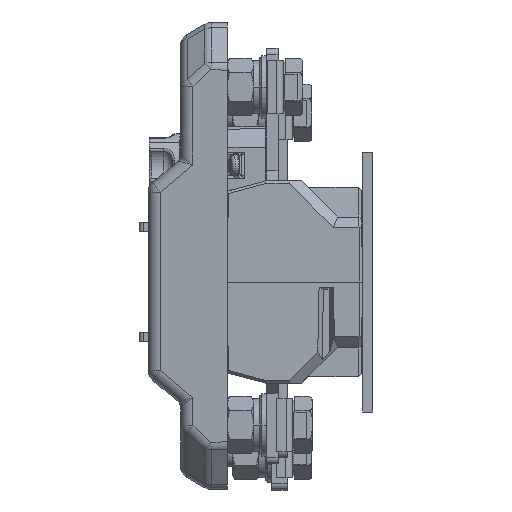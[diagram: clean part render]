
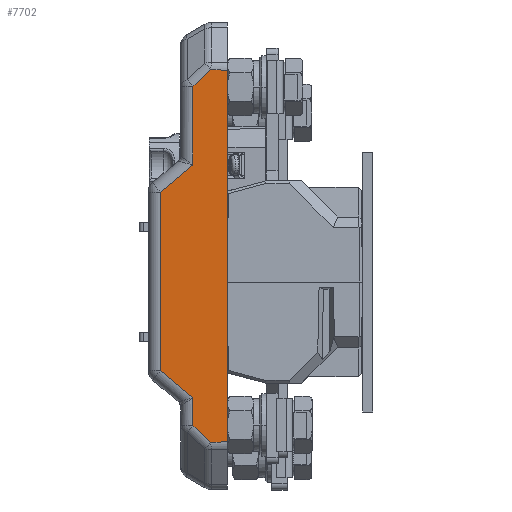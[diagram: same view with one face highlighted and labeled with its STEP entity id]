
A CAD part, left-side view. The second image highlights one B-rep face of the part: STEP entity #7702.
In plain terms, the highlighted planar face has unit normal (-0.999, 0.052, 0).
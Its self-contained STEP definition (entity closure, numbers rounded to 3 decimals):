
#6803 = VERTEX_POINT ( 'NONE', #77445 ) ;
#6806 = VERTEX_POINT ( 'NONE', #77440 ) ;
#6814 = EDGE_CURVE ( 'NONE', #6803, #6806, #77492, .T. ) ;
#7632 = EDGE_CURVE ( 'NONE', #7766, #7769, #78587, .T. ) ;
#7644 = VERTEX_POINT ( 'NONE', #78559 ) ;
#7647 = ORIENTED_EDGE ( 'NONE', *, *, #6814, .T. ) ;
#7695 = EDGE_CURVE ( 'NONE', #6806, #7766, #78606, .T. ) ;
#7696 = ORIENTED_EDGE ( 'NONE', *, *, #7695, .T. ) ;
#7702 = ADVANCED_FACE ( 'NONE', ( #78689 ), #78658, .T. ) ;
#7704 = ORIENTED_EDGE ( 'NONE', *, *, #7717, .T. ) ;
#7706 = VERTEX_POINT ( 'NONE', #78656 ) ;
#7707 = ORIENTED_EDGE ( 'NONE', *, *, #7632, .T. ) ;
#7708 = EDGE_CURVE ( 'NONE', #7769, #7644, #78660, .T. ) ;
#7710 = VERTEX_POINT ( 'NONE', #78676 ) ;
#7713 = VERTEX_POINT ( 'NONE', #78645 ) ;
#7715 = ORIENTED_EDGE ( 'NONE', *, *, #7708, .T. ) ;
#7717 = EDGE_CURVE ( 'NONE', #7644, #7706, #78647, .T. ) ;
#7718 = EDGE_CURVE ( 'NONE', #7730, #7841, #78662, .T. ) ;
#7720 = EDGE_CURVE ( 'NONE', #7706, #7713, #78729, .T. ) ;
#7724 = ORIENTED_EDGE ( 'NONE', *, *, #7718, .T. ) ;
#7726 = ORIENTED_EDGE ( 'NONE', *, *, #7839, .T. ) ;
#7728 = ORIENTED_EDGE ( 'NONE', *, *, #7720, .T. ) ;
#7729 = EDGE_CURVE ( 'NONE', #7713, #7710, #78654, .T. ) ;
#7730 = VERTEX_POINT ( 'NONE', #78719 ) ;
#7751 = EDGE_LOOP ( 'NONE', ( #7707, #7715, #7704, #7728, #7837, #7726, #7724, #7845, #7647, #7696 ) ) ;
#7766 = VERTEX_POINT ( 'NONE', #78694 ) ;
#7769 = VERTEX_POINT ( 'NONE', #78771 ) ;
#7837 = ORIENTED_EDGE ( 'NONE', *, *, #7729, .T. ) ;
#7839 = EDGE_CURVE ( 'NONE', #7710, #7730, #78865, .T. ) ;
#7841 = VERTEX_POINT ( 'NONE', #78862 ) ;
#7845 = ORIENTED_EDGE ( 'NONE', *, *, #7847, .T. ) ;
#7847 = EDGE_CURVE ( 'NONE', #7841, #6803, #77776, .T. ) ;
#77440 = CARTESIAN_POINT ( 'NONE',  ( -105.5, 0., -18.58 ) ) ;
#77445 = CARTESIAN_POINT ( 'NONE',  ( -105.5, 0., -161.42 ) ) ;
#77479 = CARTESIAN_POINT ( 'NONE',  ( -105.5, 0., -17. ) ) ;
#77484 = DIRECTION ( 'NONE',  ( 0., 0., 1. ) ) ;
#77485 = VECTOR ( 'NONE', #77484, 1000. ) ;
#77492 = LINE ( 'NONE', #77479, #77485 ) ;
#77709 = DIRECTION ( 'NONE',  ( -0.052, -0.998, 0.044 ) ) ;
#77768 = CARTESIAN_POINT ( 'NONE',  ( -105.835, -6.384, -161.137 ) ) ;
#77771 = VECTOR ( 'NONE', #77709, 1000. ) ;
#77776 = LINE ( 'NONE', #77768, #77771 ) ;
#78559 = CARTESIAN_POINT ( 'NONE',  ( -104.805, 13.262, -55.051 ) ) ;
#78582 = DIRECTION ( 'NONE',  ( 0.038, 0.731, -0.681 ) ) ;
#78583 = VECTOR ( 'NONE', #78582, 1000. ) ;
#78584 = CARTESIAN_POINT ( 'NONE',  ( -105.379, 2.316, -14.508 ) ) ;
#78587 = LINE ( 'NONE', #78584, #78583 ) ;
#78598 = CARTESIAN_POINT ( 'NONE',  ( -105.496, 0.07, -18.577 ) ) ;
#78606 = LINE ( 'NONE', #78598, #78673 ) ;
#78639 = VECTOR ( 'NONE', #78739, 1000. ) ;
#78641 = DIRECTION ( 'NONE',  ( 0., 0., -1. ) ) ;
#78642 = VECTOR ( 'NONE', #78641, 1000. ) ;
#78643 = CARTESIAN_POINT ( 'NONE',  ( -104.805, 13.262, -17. ) ) ;
#78645 = CARTESIAN_POINT ( 'NONE',  ( -104.15, 25.762, -134.01 ) ) ;
#78646 = CARTESIAN_POINT ( 'NONE',  ( -106.194, -13.236, -32.817 ) ) ;
#78647 = LINE ( 'NONE', #78646, #78639 ) ;
#78648 = DIRECTION ( 'NONE',  ( -0.052, -0.999, 0. ) ) ;
#78649 = DIRECTION ( 'NONE',  ( -0.999, 0.052, 0. ) ) ;
#78650 = CARTESIAN_POINT ( 'NONE',  ( -105.5, 0., -17. ) ) ;
#78653 = CARTESIAN_POINT ( 'NONE',  ( -101.928, 68.15, -98.442 ) ) ;
#78654 = LINE ( 'NONE', #78653, #78723 ) ;
#78656 = CARTESIAN_POINT ( 'NONE',  ( -104.15, 25.762, -65.54 ) ) ;
#78657 = DIRECTION ( 'NONE',  ( 0.052, 0.998, 0.044 ) ) ;
#78658 = PLANE ( 'NONE',  #78664 ) ;
#78660 = LINE ( 'NONE', #78643, #78642 ) ;
#78662 = LINE ( 'NONE', #78735, #78734 ) ;
#78664 = AXIS2_PLACEMENT_3D ( 'NONE', #78650, #78649, #78648 ) ;
#78673 = VECTOR ( 'NONE', #78657, 1000. ) ;
#78676 = CARTESIAN_POINT ( 'NONE',  ( -104.805, 13.262, -144.499 ) ) ;
#78689 = FACE_OUTER_BOUND ( 'NONE', #7751, .T. ) ;
#78694 = CARTESIAN_POINT ( 'NONE',  ( -105.166, 6.382, -18.296 ) ) ;
#78719 = CARTESIAN_POINT ( 'NONE',  ( -104.805, 13.262, -155.293 ) ) ;
#78721 = DIRECTION ( 'NONE',  ( -0.04, -0.765, -0.642 ) ) ;
#78723 = VECTOR ( 'NONE', #78721, 1000. ) ;
#78724 = DIRECTION ( 'NONE',  ( 0., 0., -1. ) ) ;
#78726 = VECTOR ( 'NONE', #78724, 1000. ) ;
#78727 = CARTESIAN_POINT ( 'NONE',  ( -104.15, 25.762, -17. ) ) ;
#78729 = LINE ( 'NONE', #78727, #78726 ) ;
#78732 = DIRECTION ( 'NONE',  ( -0.038, -0.731, -0.681 ) ) ;
#78734 = VECTOR ( 'NONE', #78732, 1000. ) ;
#78735 = CARTESIAN_POINT ( 'NONE',  ( -101.568, 75.027, -97.745 ) ) ;
#78739 = DIRECTION ( 'NONE',  ( 0.04, 0.765, -0.642 ) ) ;
#78771 = CARTESIAN_POINT ( 'NONE',  ( -104.805, 13.262, -24.707 ) ) ;
#78858 = DIRECTION ( 'NONE',  ( 0., 0., -1. ) ) ;
#78859 = VECTOR ( 'NONE', #78858, 1000. ) ;
#78862 = CARTESIAN_POINT ( 'NONE',  ( -105.166, 6.382, -161.704 ) ) ;
#78864 = CARTESIAN_POINT ( 'NONE',  ( -104.805, 13.262, -17. ) ) ;
#78865 = LINE ( 'NONE', #78864, #78859 ) ;
